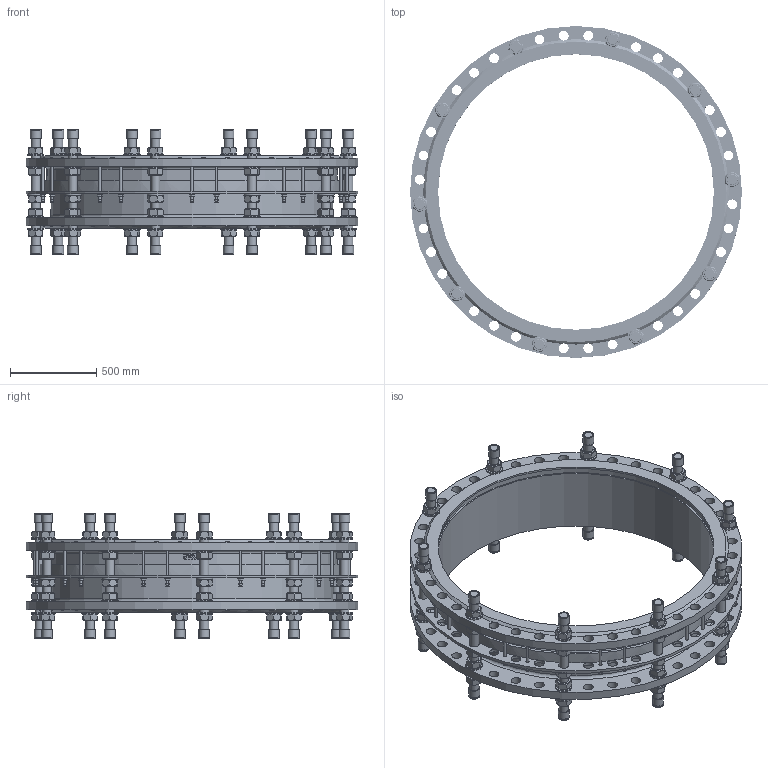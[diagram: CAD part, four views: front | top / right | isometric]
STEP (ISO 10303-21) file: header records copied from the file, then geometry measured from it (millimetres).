
FILE_DESCRIPTION(('STEP AP242'), '1');
FILE_NAME('Ìîíòàæíàÿ âñòàâêà', '', ('UNSPECIFIED'), ('UNSPECIFIED'), 'C3D Converter', 'C3D Toolkit', '');
FILE_SCHEMA(('AP242_MANAGED_MODEL_BASED_3D_ENGINEERING_MIM_LF { 1 0 10303 442 1 1 4 }'));
Length unit declared in the file: millimetre
Products named in the file (13): ШМ.М16.310; ШМ.М16.206
Assembly tree (214 placements, depth 2):
  (unnamed)
    (unnamed)
    (unnamed)
    (unnamed)
    (unnamed)
    (unnamed)  x50
    (unnamed)  x50
    ШМ.М16.310  x10
    (unnamed)  x20
    (unnamed)  x20
    (unnamed)  x20
    ШМ.М16.206  x20
    (unnamed)  x20
Bounding box: 1926 x 1926 x 730.4 mm (x, y, z)
Volume: 172388783.6 mm3; surface area: 16487525.9 mm2
Topology: 218 solids, 218 shells, 1848 faces, 4109 edges, 2644 vertices
Faces by surface type: plane 947, cylinder 502, cone 346, torus 42, extrusion 11
Full cylindrical faces by diameter (mm): 16 x80, 17 x20, 18 x20, 19.2 x20, 30 x20, 33.221 x1, 52 x80, 54 x50, 57 x120, 62.4 x20, 96 x50, 1600 x2, 1634 x2, 1651 x2, 1685 x1, 1702 x1, 1729 x1, 1763 x1, 1926 x3
Entity records: 27428 total; most frequent: CARTESIAN_POINT 11859, DIRECTION 2446, ORIENTED_EDGE 1762, AXIS2_PLACEMENT_3D 1186, EDGE_CURVE 881, EDGE_LOOP 787, VERTEX_POINT 708, CIRCLE 658
